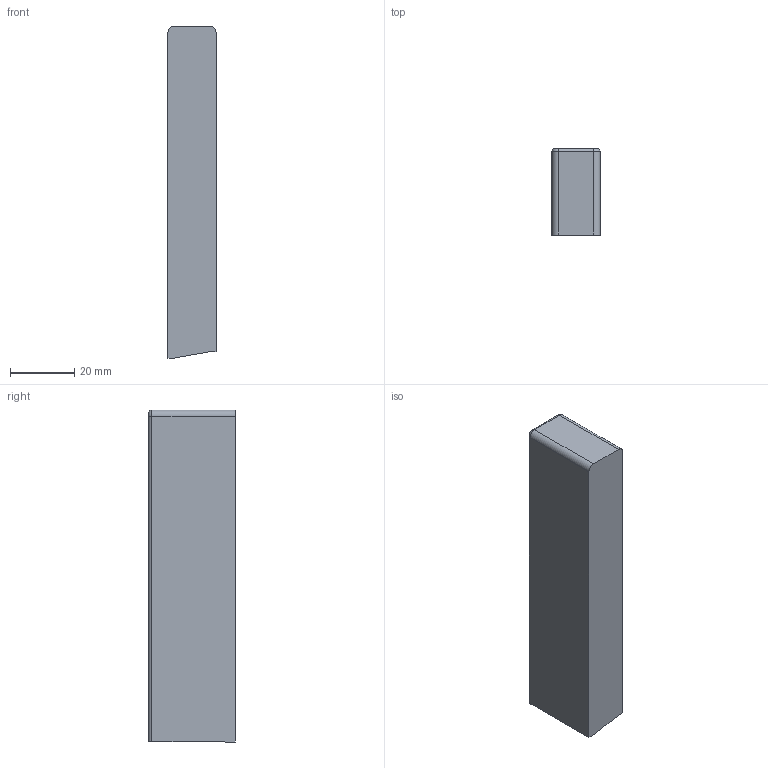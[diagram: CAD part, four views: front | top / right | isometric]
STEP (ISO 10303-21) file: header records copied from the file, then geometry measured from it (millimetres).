
FILE_DESCRIPTION (( 'STEP AP214' ), '1' );
FILE_NAME ('Abdeckkappe_Deluxe_vorne_rechts_Crystal .step', '2010-10-27T12:08:43', ( 'grass' ), ( '' ), 'SwSTEP 2.0', 'SolidWorks 2010', '' );
FILE_SCHEMA (( 'AUTOMOTIVE_DESIGN' ));
Length unit declared in the file: millimetre
Products named in the file (1): Abdeckkappe_Deluxe_vorne_rechts_Crystal 
Bounding box: 15 x 27 x 103.5 mm (x, y, z)
Volume: 35660.2 mm3; surface area: 10760 mm2
Topology: 1 solids, 1 shells, 20 faces, 47 edges, 30 vertices
Faces by surface type: plane 13, cylinder 5, torus 2
Entity records: 605 total; most frequent: DIRECTION 101, CARTESIAN_POINT 98, ORIENTED_EDGE 94, EDGE_CURVE 47, LINE 35, VECTOR 35, AXIS2_PLACEMENT_3D 33, VERTEX_POINT 30
